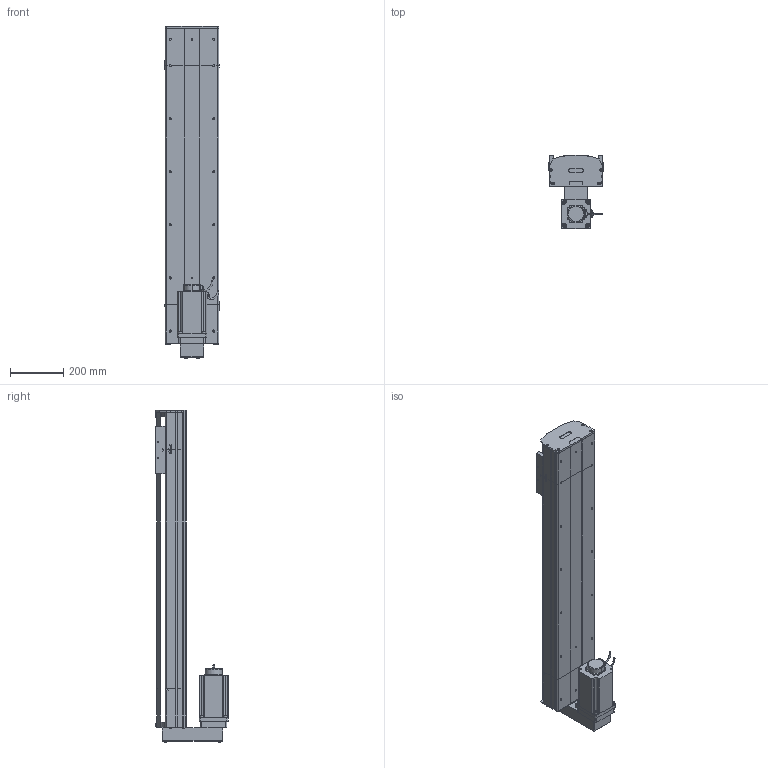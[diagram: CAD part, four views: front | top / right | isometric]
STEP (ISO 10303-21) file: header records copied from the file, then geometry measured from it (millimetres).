
FILE_DESCRIPTION (( 'STEP AP214' ), '1' );
FILE_NAME ('D20 TSH BM S900.STEP', '2010-06-30T08:37:48', ( 'Conseil Régional Haute-Normandie' ), ( 'Conseil Régional Haute-Normandie' ), 'SwSTEP 2.0', 'SolidWorks 2010', '' );
FILE_SCHEMA (( 'AUTOMOTIVE_DESIGN' ));
Length unit declared in the file: millimetre
Products named in the file (35): head BM D20_Default; couvercle head l D20_Default; corpl head MD D20_Default; couvercle D20 S900_Default; plaque de  bout head BR D20_Default; Plaque racord D20_Default; Arbre+rail head D20; chariot D20S_Default; Conecteur_Default; tail D20 +100_Default; avant 110BLDC170A-630x; codeur 110BLDC170A-630x; Conecteur2_Default; Moteur motionking 110BLDC170A-640x; corps 110BLDC170A-630x; renvoi  BM_Default; vis M8 L12_Default; Arbre+rail tail D20; vis M5 L70_Default; clavette; guide D20; tete d''axe bas D20; corpl tail D20 +100_Default; tete d''axe haut D20; plaque de  bout tail D20_Default; vis M5 L8 90°_Default; 2 vis M5 L12_Default; couvercle tail D20_Default; Chariot D20; vis M5 L25_Default; vis M5 L12_Default; rail + arbre  D20 S900; corp D20 S900_Default; D20 TSH BM S900; course D20 L900_Default
Assembly tree (59 placements, depth 4):
  D20 TSH BM S900
    chariot D20S_Default
      guide D20  x2
      vis M5 L12_Default  x4
      Chariot D20
    head BM D20_Default
      vis M5 L25_Default  x2
      2 vis M5 L12_Default  x6
      plaque de  bout head BR D20_Default
      Arbre+rail head D20
      vis M5 L70_Default  x4
      Moteur motionking 110BLDC170A-640x
        Conecteur_Default
        avant 110BLDC170A-630x
        Conecteur2_Default
        corps 110BLDC170A-630x
        clavette
        codeur 110BLDC170A-630x
      vis M8 L12_Default  x4
      vis M5 L12_Default  x2
      corpl head MD D20_Default
      Plaque racord D20_Default
      couvercle head l D20_Default
      renvoi  BM_Default
    course D20 L900_Default
      couvercle D20 S900_Default
      corp D20 S900_Default
      rail + arbre  D20 S900
    tail D20 +100_Default
      2 vis M5 L12_Default  x4
      vis M5 L8 90°_Default  x2
      tete d''axe bas D20
      vis M5 L25_Default  x2
      corpl tail D20 +100_Default
      plaque de  bout tail D20_Default
      tete d''axe haut D20
      couvercle tail D20_Default
      Arbre+rail tail D20
Bounding box: 206 x 273.7 x 1251.7 mm (x, y, z)
Volume: 12445694.8 mm3; surface area: 2577457.6 mm2
Topology: 84 solids, 84 shells, 2334 faces, 5882 edges, 3799 vertices
Faces by surface type: plane 1390, cylinder 656, bspline 136, torus 77, cone 71, sphere 4
Entity records: 76189 total; most frequent: CARTESIAN_POINT 24965, ORIENTED_EDGE 9060, DIRECTION 8521, EDGE_CURVE 4530, LINE 2983, VECTOR 2983, VERTEX_POINT 2981, AXIS2_PLACEMENT_3D 2769
